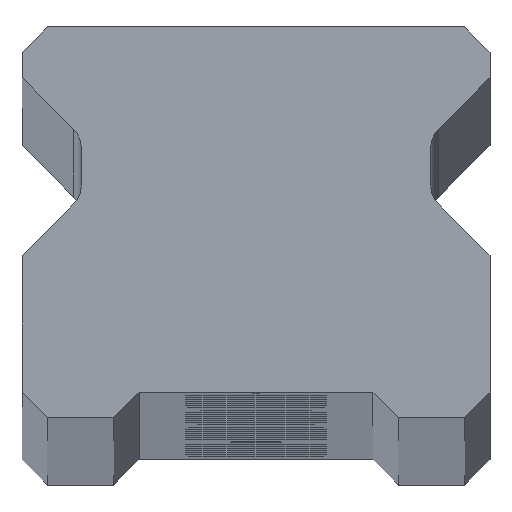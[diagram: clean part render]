
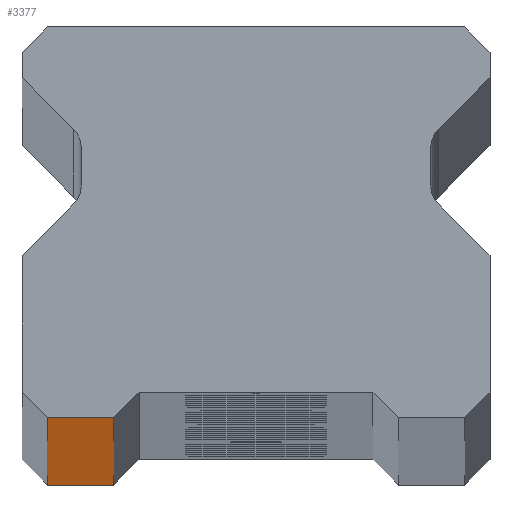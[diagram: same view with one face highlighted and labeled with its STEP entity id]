
A CAD part, top view. The second image highlights one B-rep face of the part: STEP entity #3377.
In plain terms, the highlighted planar face has unit normal (0, -1, 0).
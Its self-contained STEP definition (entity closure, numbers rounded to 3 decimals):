
#129 = DIRECTION ( 'NONE',  ( 0., 0., -1. ) ) ;
#283 = CARTESIAN_POINT ( 'NONE',  ( -7., 0., 950. ) ) ;
#496 = LINE ( 'NONE', #3541, #2190 ) ;
#549 = EDGE_CURVE ( 'NONE', #2449, #5172, #1920, .T. ) ;
#571 = LINE ( 'NONE', #896, #4011 ) ;
#619 = CARTESIAN_POINT ( 'NONE',  ( -10.25, 0., 950. ) ) ;
#747 = LINE ( 'NONE', #1905, #2941 ) ;
#896 = CARTESIAN_POINT ( 'NONE',  ( 11.5, 0., -950. ) ) ;
#902 = EDGE_CURVE ( 'NONE', #2449, #5209, #496, .T. ) ;
#1177 = VERTEX_POINT ( 'NONE', #2111 ) ;
#1303 = EDGE_CURVE ( 'NONE', #5172, #1177, #571, .T. ) ;
#1905 = CARTESIAN_POINT ( 'NONE',  ( -7., 0., -950. ) ) ;
#1920 = LINE ( 'NONE', #619, #2701 ) ;
#1968 = CARTESIAN_POINT ( 'NONE',  ( 11.5, 0., 950. ) ) ;
#2111 = CARTESIAN_POINT ( 'NONE',  ( -7., 0., -950. ) ) ;
#2182 = DIRECTION ( 'NONE',  ( 1., 0., 0. ) ) ;
#2190 = VECTOR ( 'NONE', #2182, 1000. ) ;
#2449 = VERTEX_POINT ( 'NONE', #2696 ) ;
#2662 = DIRECTION ( 'NONE',  ( 1., 0., 0. ) ) ;
#2680 = ORIENTED_EDGE ( 'NONE', *, *, #549, .T. ) ;
#2696 = CARTESIAN_POINT ( 'NONE',  ( -10.25, 0., 950. ) ) ;
#2701 = VECTOR ( 'NONE', #129, 1000. ) ;
#2941 = VECTOR ( 'NONE', #5458, 1000. ) ;
#3250 = ORIENTED_EDGE ( 'NONE', *, *, #4151, .T. ) ;
#3259 = DIRECTION ( 'NONE',  ( -1., 0., 0. ) ) ;
#3377 = ADVANCED_FACE ( 'NONE', ( #3912 ), #4630, .F. ) ;
#3458 = CARTESIAN_POINT ( 'NONE',  ( -10.25, 0., -950. ) ) ;
#3541 = CARTESIAN_POINT ( 'NONE',  ( 11.5, 0., 950. ) ) ;
#3912 = FACE_OUTER_BOUND ( 'NONE', #5584, .T. ) ;
#3961 = ORIENTED_EDGE ( 'NONE', *, *, #902, .F. ) ;
#4011 = VECTOR ( 'NONE', #2662, 1000. ) ;
#4151 = EDGE_CURVE ( 'NONE', #1177, #5209, #747, .T. ) ;
#4191 = DIRECTION ( 'NONE',  ( 0., 1., 0. ) ) ;
#4630 = PLANE ( 'NONE',  #5027 ) ;
#4786 = ORIENTED_EDGE ( 'NONE', *, *, #1303, .T. ) ;
#5027 = AXIS2_PLACEMENT_3D ( 'NONE', #1968, #4191, #3259 ) ;
#5172 = VERTEX_POINT ( 'NONE', #3458 ) ;
#5209 = VERTEX_POINT ( 'NONE', #283 ) ;
#5458 = DIRECTION ( 'NONE',  ( 0., 0., 1. ) ) ;
#5584 = EDGE_LOOP ( 'NONE', ( #4786, #3250, #3961, #2680 ) ) ;
